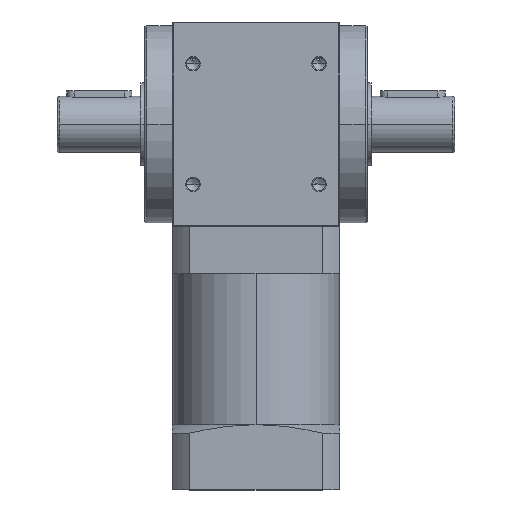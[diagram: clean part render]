
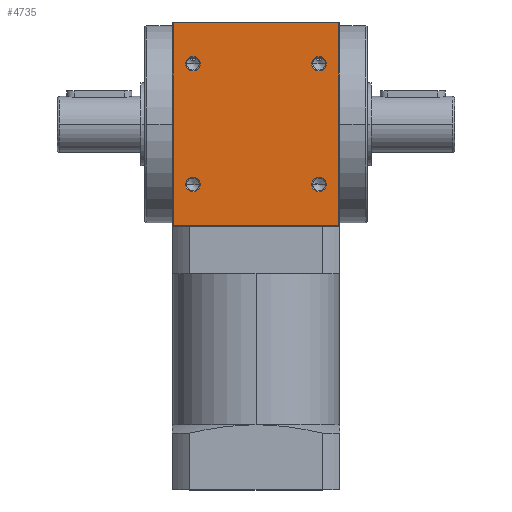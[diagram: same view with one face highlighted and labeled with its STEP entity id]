
A CAD part, top view. The second image highlights one B-rep face of the part: STEP entity #4735.
In plain terms, the highlighted planar face has unit normal (0, 0, 1).
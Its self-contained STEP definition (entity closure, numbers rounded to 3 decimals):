
#34 = AXIS2_PLACEMENT_3D ( 'NONE', #4072, #4039, #4006 ) ;
#127 = FACE_OUTER_BOUND ( 'NONE', #4060, .T. ) ;
#233 = LINE ( 'NONE', #898, #2078 ) ;
#239 = CARTESIAN_POINT ( 'NONE',  ( -34., 36.4, 55. ) ) ;
#246 = FACE_BOUND ( 'NONE', #7884, .T. ) ;
#302 = EDGE_CURVE ( 'NONE', #6403, #5775, #6795, .T. ) ;
#504 = CARTESIAN_POINT ( 'NONE',  ( 44.5, 54.5, 55. ) ) ;
#613 = CARTESIAN_POINT ( 'NONE',  ( 37.9, 32.5, 55. ) ) ;
#616 = AXIS2_PLACEMENT_3D ( 'NONE', #1660, #7007, #2464 ) ;
#874 = CARTESIAN_POINT ( 'NONE',  ( -34., 32.5, 55. ) ) ;
#897 = EDGE_CURVE ( 'NONE', #1282, #7610, #3811, .T. ) ;
#898 = CARTESIAN_POINT ( 'NONE',  ( 45., -54.5, 55. ) ) ;
#913 = CARTESIAN_POINT ( 'NONE',  ( 44.5, -54.5, 55. ) ) ;
#986 = DIRECTION ( 'NONE',  ( 0., 0., 1. ) ) ;
#1247 = DIRECTION ( 'NONE',  ( 0., 0., 1. ) ) ;
#1274 = CARTESIAN_POINT ( 'NONE',  ( -44.5, -54.5, 55. ) ) ;
#1282 = VERTEX_POINT ( 'NONE', #6930 ) ;
#1401 = CARTESIAN_POINT ( 'NONE',  ( 34., -32.5, 55. ) ) ;
#1654 = AXIS2_PLACEMENT_3D ( 'NONE', #7008, #2465, #7782 ) ;
#1660 = CARTESIAN_POINT ( 'NONE',  ( 34., 32.5, 55. ) ) ;
#1663 = VERTEX_POINT ( 'NONE', #613 ) ;
#1679 = CARTESIAN_POINT ( 'NONE',  ( -44.5, 55., 55. ) ) ;
#1794 = CARTESIAN_POINT ( 'NONE',  ( 37.9, -32.5, 55. ) ) ;
#2078 = VECTOR ( 'NONE', #6246, 1000. ) ;
#2176 = DIRECTION ( 'NONE',  ( 1., 0., 0. ) ) ;
#2236 = FACE_BOUND ( 'NONE', #6905, .T. ) ;
#2346 = FACE_BOUND ( 'NONE', #3591, .T. ) ;
#2359 = CIRCLE ( 'NONE', #1654, 3.9 ) ;
#2465 = DIRECTION ( 'NONE',  ( 0., 0., 1. ) ) ;
#2464 = DIRECTION ( 'NONE',  ( 1., 0., 0. ) ) ;
#2678 = AXIS2_PLACEMENT_3D ( 'NONE', #1401, #6747, #2176 ) ;
#2706 = PLANE ( 'NONE',  #9173 ) ;
#2717 = VERTEX_POINT ( 'NONE', #913 ) ;
#2735 = DIRECTION ( 'NONE',  ( 0., 0., -1. ) ) ;
#2850 = AXIS2_PLACEMENT_3D ( 'NONE', #5831, #1247, #4297 ) ;
#2979 = EDGE_CURVE ( 'NONE', #7610, #1282, #4655, .T. ) ;
#3050 = DIRECTION ( 'NONE',  ( 0., 0., 1. ) ) ;
#3100 = CIRCLE ( 'NONE', #6222, 3.9 ) ;
#3160 = EDGE_CURVE ( 'NONE', #3375, #2717, #233, .T. ) ;
#3174 = EDGE_CURVE ( 'NONE', #6115, #3375, #6124, .T. ) ;
#3306 = ORIENTED_EDGE ( 'NONE', *, *, #302, .F. ) ;
#3310 = ORIENTED_EDGE ( 'NONE', *, *, #4590, .F. ) ;
#3375 = VERTEX_POINT ( 'NONE', #1274 ) ;
#3591 = EDGE_LOOP ( 'NONE', ( #4382, #5178 ) ) ;
#3811 = CIRCLE ( 'NONE', #8768, 3.9 ) ;
#3998 = ORIENTED_EDGE ( 'NONE', *, *, #2979, .F. ) ;
#4004 = CARTESIAN_POINT ( 'NONE',  ( -34., -28.6, 55. ) ) ;
#4006 = DIRECTION ( 'NONE',  ( 1., 0., 0. ) ) ;
#4011 = ORIENTED_EDGE ( 'NONE', *, *, #9181, .T. ) ;
#4039 = DIRECTION ( 'NONE',  ( 0., 0., 1. ) ) ;
#4060 = EDGE_LOOP ( 'NONE', ( #4011, #9860, #9490, #6211 ) ) ;
#4072 = CARTESIAN_POINT ( 'NONE',  ( 34., -32.5, 55. ) ) ;
#4297 = DIRECTION ( 'NONE',  ( 0., -1., 0. ) ) ;
#4298 = FACE_BOUND ( 'NONE', #6666, .T. ) ;
#4382 = ORIENTED_EDGE ( 'NONE', *, *, #5839, .F. ) ;
#4590 = EDGE_CURVE ( 'NONE', #5120, #7668, #2359, .T. ) ;
#4655 = CIRCLE ( 'NONE', #5249, 3.9 ) ;
#4735 = ADVANCED_FACE ( 'NONE', ( #246, #2236, #2346, #4298, #127 ), #2706, .F. ) ;
#4786 = EDGE_CURVE ( 'NONE', #7668, #5120, #8229, .T. ) ;
#5120 = VERTEX_POINT ( 'NONE', #4004 ) ;
#5178 = ORIENTED_EDGE ( 'NONE', *, *, #9907, .F. ) ;
#5249 = AXIS2_PLACEMENT_3D ( 'NONE', #7607, #3050, #8398 ) ;
#5311 = CARTESIAN_POINT ( 'NONE',  ( 30.1, 32.5, 55. ) ) ;
#5410 = CARTESIAN_POINT ( 'NONE',  ( 30.1, -32.5, 55. ) ) ;
#5414 = VERTEX_POINT ( 'NONE', #504 ) ;
#5491 = DIRECTION ( 'NONE',  ( 0., -1., 0. ) ) ;
#5570 = CARTESIAN_POINT ( 'NONE',  ( 34., 32.5, 55. ) ) ;
#5601 = ORIENTED_EDGE ( 'NONE', *, *, #897, .F. ) ;
#5775 = VERTEX_POINT ( 'NONE', #5410 ) ;
#5831 = CARTESIAN_POINT ( 'NONE',  ( -34., -32.5, 55. ) ) ;
#5839 = EDGE_CURVE ( 'NONE', #1663, #9013, #9699, .T. ) ;
#6115 = VERTEX_POINT ( 'NONE', #9780 ) ;
#6124 = LINE ( 'NONE', #1679, #8204 ) ;
#6179 = ORIENTED_EDGE ( 'NONE', *, *, #8878, .F. ) ;
#6192 = LINE ( 'NONE', #6219, #8266 ) ;
#6211 = ORIENTED_EDGE ( 'NONE', *, *, #7568, .F. ) ;
#6219 = CARTESIAN_POINT ( 'NONE',  ( 45., 54.5, 55. ) ) ;
#6222 = AXIS2_PLACEMENT_3D ( 'NONE', #5570, #986, #6338 ) ;
#6246 = DIRECTION ( 'NONE',  ( 1., 0., 0. ) ) ;
#6328 = DIRECTION ( 'NONE',  ( 0., -1., 0. ) ) ;
#6338 = DIRECTION ( 'NONE',  ( 1., 0., 0. ) ) ;
#6358 = CARTESIAN_POINT ( 'NONE',  ( 44.5, 0., 55. ) ) ;
#6403 = VERTEX_POINT ( 'NONE', #1794 ) ;
#6666 = EDGE_LOOP ( 'NONE', ( #5601, #3998 ) ) ;
#6747 = DIRECTION ( 'NONE',  ( 0., 0., 1. ) ) ;
#6795 = CIRCLE ( 'NONE', #34, 3.9 ) ;
#6812 = CIRCLE ( 'NONE', #2678, 3.9 ) ;
#6905 = EDGE_LOOP ( 'NONE', ( #3306, #6179 ) ) ;
#6930 = CARTESIAN_POINT ( 'NONE',  ( -34., 28.6, 55. ) ) ;
#7002 = DIRECTION ( 'NONE',  ( -1., 0., 0. ) ) ;
#7008 = CARTESIAN_POINT ( 'NONE',  ( -34., -32.5, 55. ) ) ;
#7007 = DIRECTION ( 'NONE',  ( 0., 0., 1. ) ) ;
#7263 = DIRECTION ( 'NONE',  ( 0., -1., 0. ) ) ;
#7286 = CARTESIAN_POINT ( 'NONE',  ( 45., 55., 55. ) ) ;
#7385 = CARTESIAN_POINT ( 'NONE',  ( -34., -36.4, 55. ) ) ;
#7568 = EDGE_CURVE ( 'NONE', #5414, #2717, #9858, .T. ) ;
#7607 = CARTESIAN_POINT ( 'NONE',  ( -34., 32.5, 55. ) ) ;
#7610 = VERTEX_POINT ( 'NONE', #239 ) ;
#7668 = VERTEX_POINT ( 'NONE', #7385 ) ;
#7782 = DIRECTION ( 'NONE',  ( 0., -1., 0. ) ) ;
#7884 = EDGE_LOOP ( 'NONE', ( #8948, #3310 ) ) ;
#8070 = DIRECTION ( 'NONE',  ( 0., 1., 0. ) ) ;
#8204 = VECTOR ( 'NONE', #5491, 1000. ) ;
#8229 = CIRCLE ( 'NONE', #2850, 3.9 ) ;
#8266 = VECTOR ( 'NONE', #7002, 1000. ) ;
#8398 = DIRECTION ( 'NONE',  ( 0., -1., 0. ) ) ;
#8768 = AXIS2_PLACEMENT_3D ( 'NONE', #874, #9006, #7263 ) ;
#8878 = EDGE_CURVE ( 'NONE', #5775, #6403, #6812, .T. ) ;
#8948 = ORIENTED_EDGE ( 'NONE', *, *, #4786, .F. ) ;
#9006 = DIRECTION ( 'NONE',  ( 0., 0., 1. ) ) ;
#9013 = VERTEX_POINT ( 'NONE', #5311 ) ;
#9173 = AXIS2_PLACEMENT_3D ( 'NONE', #7286, #2735, #8070 ) ;
#9181 = EDGE_CURVE ( 'NONE', #5414, #6115, #6192, .T. ) ;
#9490 = ORIENTED_EDGE ( 'NONE', *, *, #3160, .T. ) ;
#9618 = VECTOR ( 'NONE', #6328, 1000. ) ;
#9699 = CIRCLE ( 'NONE', #616, 3.9 ) ;
#9780 = CARTESIAN_POINT ( 'NONE',  ( -44.5, 54.5, 55. ) ) ;
#9858 = LINE ( 'NONE', #6358, #9618 ) ;
#9860 = ORIENTED_EDGE ( 'NONE', *, *, #3174, .T. ) ;
#9907 = EDGE_CURVE ( 'NONE', #9013, #1663, #3100, .T. ) ;
